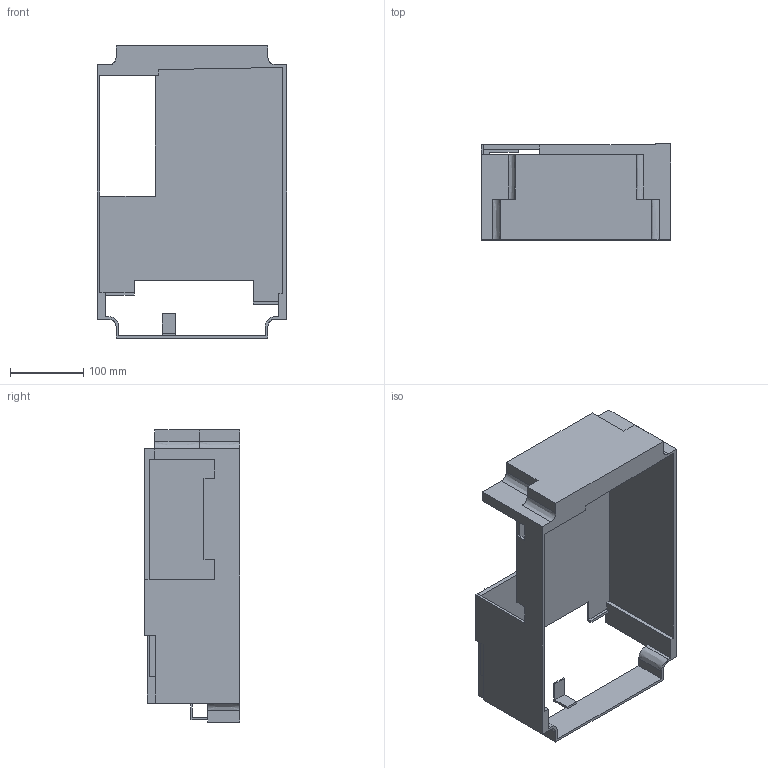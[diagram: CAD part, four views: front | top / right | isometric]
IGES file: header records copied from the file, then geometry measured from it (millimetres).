
Start section:  PTC IGES file: j4-22k-case1.igs
Global section: file name: j4-22k-case1.igs; native system: Pro/ENGINEER by Parametric Technology Corporation; preprocessor: 2010160; author: JE18792; organization: Unknown; date: 20121101.153739; units: millimetre
Bounding box: 260 x 131.2 x 400 mm (x, y, z)
Volume: 1623120.1 mm3; surface area: 428110.7 mm2
Topology: 1 solids, 1 shells, 295 faces, 757 edges, 504 vertices
Faces by surface type: bspline 295
